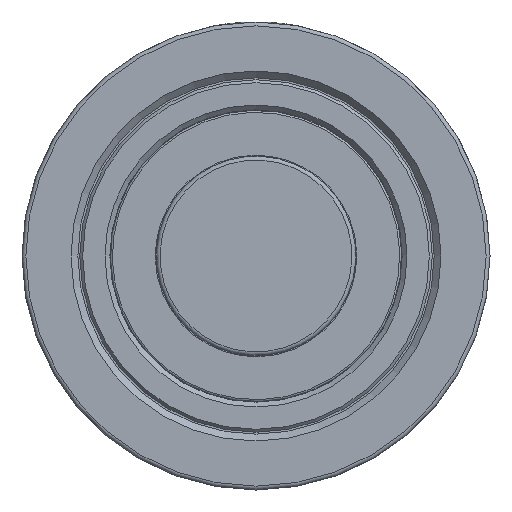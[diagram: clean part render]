
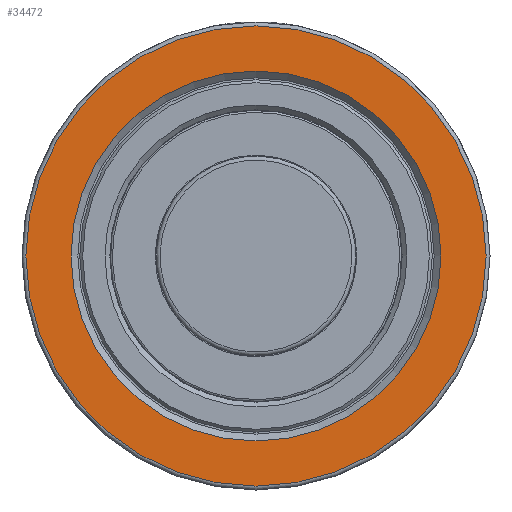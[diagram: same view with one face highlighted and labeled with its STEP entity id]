
A CAD part, left-side view. The second image highlights one B-rep face of the part: STEP entity #34472.
In plain terms, the highlighted planar face has unit normal (-1, 0, 0).
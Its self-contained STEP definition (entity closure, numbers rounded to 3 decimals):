
#9944=FACE_BOUND('',#13126,.T.);
#11240=FACE_OUTER_BOUND('',#13125,.T.);
#13125=EDGE_LOOP('',(#29662));
#13126=EDGE_LOOP('',(#29663));
#14029=CIRCLE('',#35946,23.7);
#14030=CIRCLE('',#35948,19.05);
#16422=VERTEX_POINT('',#66257);
#16423=VERTEX_POINT('',#66261);
#21009=EDGE_CURVE('',#16422,#16422,#14029,.T.);
#21010=EDGE_CURVE('',#16423,#16423,#14030,.T.);
#29662=ORIENTED_EDGE('',*,*,#21009,.F.);
#29663=ORIENTED_EDGE('',*,*,#21010,.F.);
#33092=PLANE('',#35947);
#34472=ADVANCED_FACE('',(#11240,#9944),#33092,.T.);
#35946=AXIS2_PLACEMENT_3D('',#66259,#39390,#39391);
#35947=AXIS2_PLACEMENT_3D('',#66260,#39392,#39393);
#35948=AXIS2_PLACEMENT_3D('',#66262,#39394,#39395);
#39390=DIRECTION('center_axis',(1.,0.,0.));
#39391=DIRECTION('ref_axis',(0.,0.,
1.));
#39392=DIRECTION('center_axis',(-1.,0.,0.));
#39393=DIRECTION('ref_axis',(0.,1.,0.));
#39394=DIRECTION('center_axis',(-1.,0.,0.));
#39395=DIRECTION('ref_axis',(0.,0.,1.));
#66257=CARTESIAN_POINT('',(-29.512,23.7,0.));
#66259=CARTESIAN_POINT('Origin',(-29.512,0.,
0.));
#66260=CARTESIAN_POINT('Origin',(-29.512,0.,
-24.1));
#66261=CARTESIAN_POINT('',(-29.512,0.,-19.05));
#66262=CARTESIAN_POINT('Origin',(-29.512,0.,
0.));
